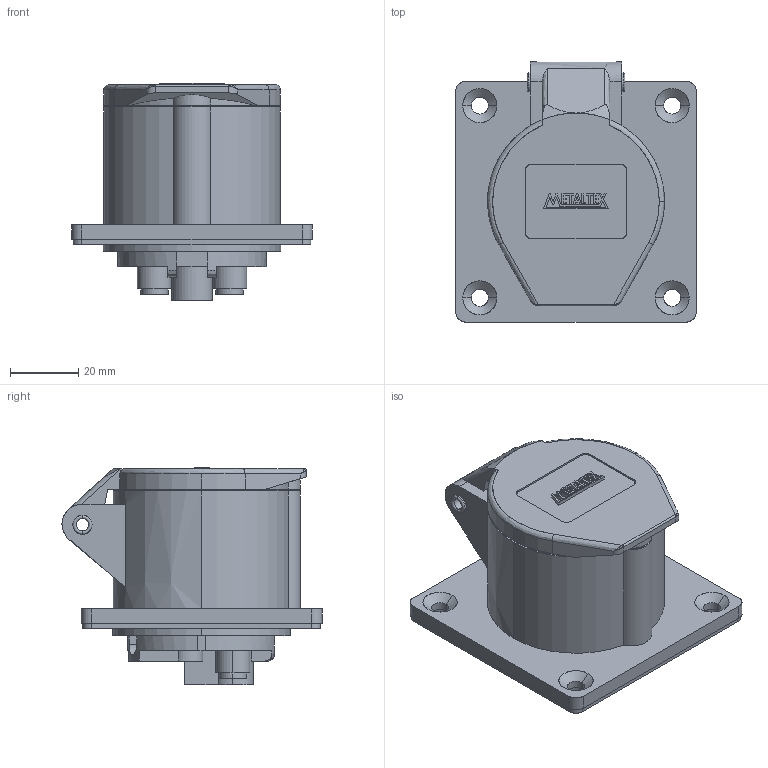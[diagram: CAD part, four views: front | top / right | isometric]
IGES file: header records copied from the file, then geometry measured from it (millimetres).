
Start section: SolidWorks IGES file using analytic representation for surfaces
Global section: file name: D:\X - Arquivos\PROEX\Empresas\P11 - METALTEX\01 - Produtos\IGES\4ª remessa\3ª etapa\TLR16432.IGS; native system: SolidWorks 2012; preprocessor: SolidWorks 2012; author: Usuario; date: 180418.161318; units: millimetre
Bounding box: 70.5 x 76.15 x 63.8 mm (x, y, z)
Surface area: 25833.9 mm2 (no closed solid volume)
Topology: 0 solids, 0 shells, 384 faces, 5191 edges, 5190 vertices
Faces by surface type: bspline 251, revolution 133
